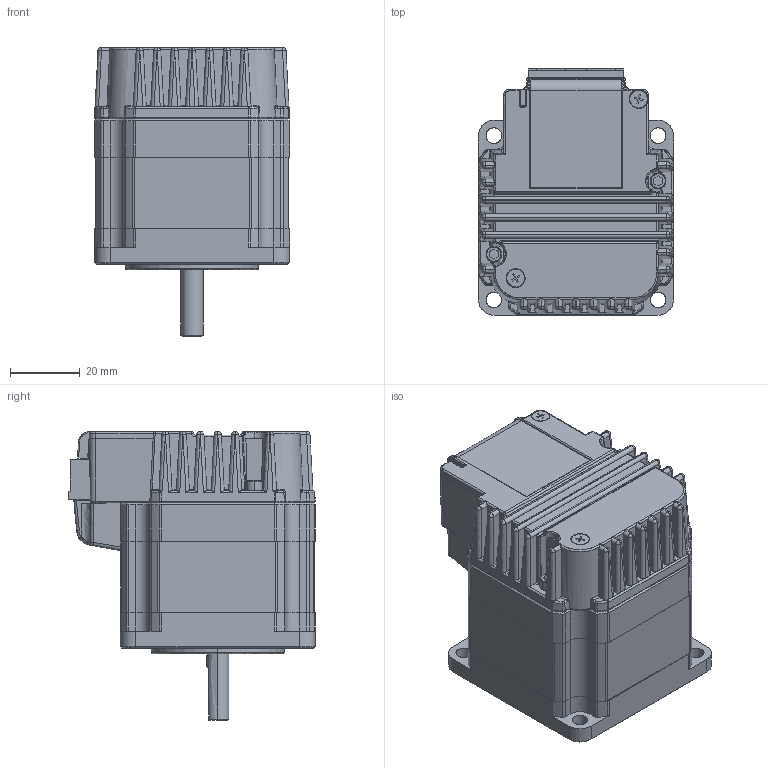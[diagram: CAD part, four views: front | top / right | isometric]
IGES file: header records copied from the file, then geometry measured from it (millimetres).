
Start section: SolidWorks IGES file using analytic representation for surfaces
Global section: file name: \\192.168.1.175\Public\CAD Files\Motors\CoolmuscleMotors\CM3 Series CAD\CM3-23S\CM3-23S50A.IGS; native system: SolidWorks 2019; preprocessor: SolidWorks 2019; author: Chris Murray; date: 210720.111319; units: millimetre
Bounding box: 56 x 70.75 x 82.9 mm (x, y, z)
Surface area: 32447.8 mm2 (no closed solid volume)
Topology: 0 solids, 0 shells, 1348 faces, 10509 edges, 10451 vertices
Faces by surface type: bspline 802, revolution 546
